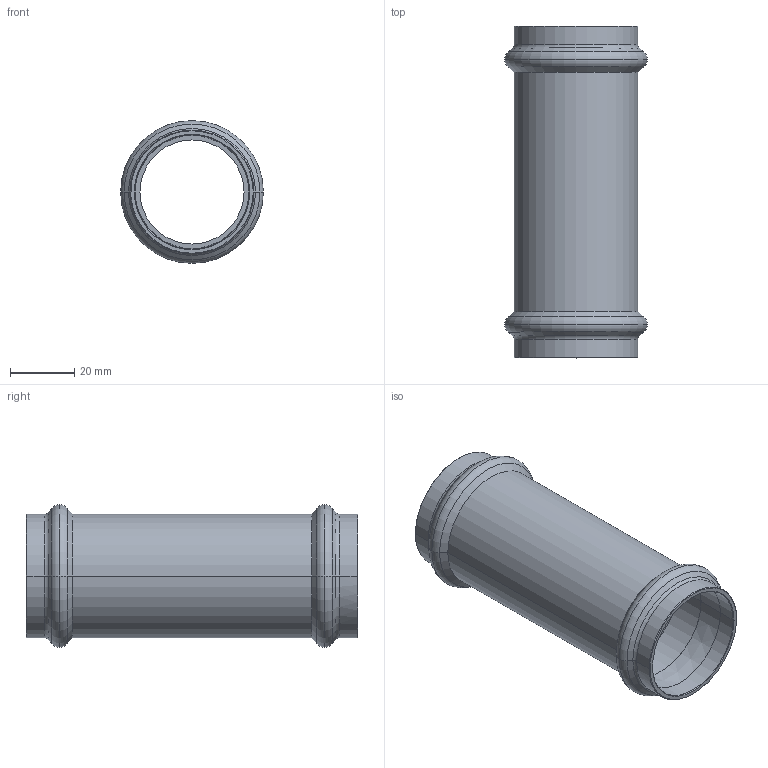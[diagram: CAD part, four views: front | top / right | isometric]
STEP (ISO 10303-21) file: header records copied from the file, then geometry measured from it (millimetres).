
FILE_DESCRIPTION(('CoCreate Modeling STEP Export'),'2;1');
FILE_NAME('8275VW35.stp','2013-01-29T12:45:54',(''),(''),'CoCreate Modeling STEP processor for AP214 (Solid Model)','CoCreate Modeling 17.00A 17-Jun-2010 (C) Parametric Technology GmbH','');
FILE_SCHEMA(('AUTOMOTIVE_DESIGN { 1 0 10303 214 1 1 1 1 }'));
Length unit declared in the file: millimetre
Products named in the file (1): 8275VW35
Bounding box: 44.3 x 103 x 44.3 mm (x, y, z)
Volume: 22186.1 mm3; surface area: 25525 mm2
Topology: 1 solids, 1 shells, 62 faces, 132 edges, 76 vertices
Faces by surface type: cone 20, cylinder 20, torus 16, plane 6
Entity records: 1346 total; most frequent: ORIENTED_EDGE 264, DIRECTION 206, CARTESIAN_POINT 199, EDGE_CURVE 132, AXIS2_PLACEMENT_3D 83, VERTEX_POINT 76, EDGE_LOOP 68, FACE_OUTER_BOUND 62
